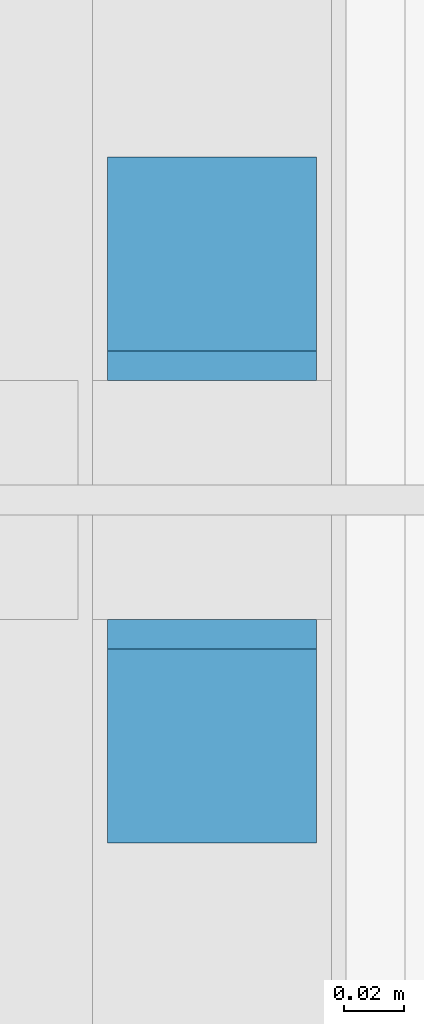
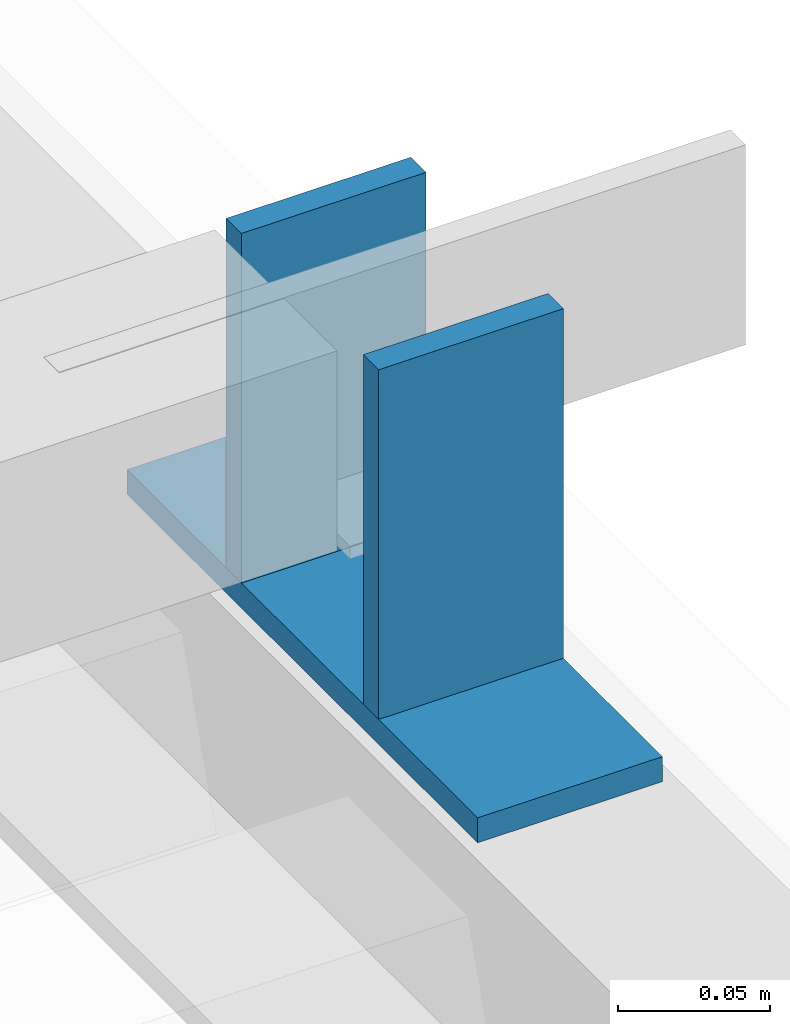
# One storey, part 32 of 98: 3 beams.
"""IFC2X3 building model written with IfcOpenShell, lengths in millimetres."""

from ifc_helpers import new_model, entity, si_unit, converted_unit, derived_unit, direction, frame, origin_with_axes, place, context, subcontext, project, spatial, faceted_brep, material, type_object, element, save


model = new_model("IFC2X3")

# Units and contexts
model_context = context("Model", 3, precision=0.01, world=frame((0.0, 4.29681676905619e-09, 0.0)), true_north=direction((4.01073788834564e-13, 1.0)))
plan_context = context("Plan", 3, precision=0.01, world=frame((0.0, 4.29681676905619e-09, 0.0)), true_north=direction((4.01073788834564e-13, 1.0)))
body_context = subcontext(model_context, "Body", "Model", "MODEL_VIEW")
ifc_project = project(units=[converted_unit("PLANEANGLEUNIT", "DEGREE", entity("IfcPositiveLengthMeasure", 0.0174532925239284), si_unit("PLANEANGLEUNIT", "RADIAN"), dimensions=[0, 0, 0, 0, 0, 0, 0]), si_unit("AREAUNIT", "SQUARE_METRE"), si_unit("LENGTHUNIT", "METRE", prefix="MILLI"), si_unit("MASSUNIT", "GRAM", prefix="KILO"), si_unit("POWERUNIT", "WATT"), si_unit("PRESSUREUNIT", "PASCAL"), si_unit("FORCEUNIT", "NEWTON", prefix="KILO"), si_unit("ELECTRICCURRENTUNIT", "AMPERE"), si_unit("THERMODYNAMICTEMPERATUREUNIT", "DEGREE_CELSIUS"), si_unit("TIMEUNIT", "SECOND"), si_unit("VOLUMEUNIT", "CUBIC_METRE"), derived_unit("LINEARVELOCITYUNIT", [(si_unit("LENGTHUNIT", "METRE"), 1), (si_unit("TIMEUNIT", "SECOND"), -1)]), derived_unit("VOLUMETRICFLOWRATEUNIT", [(si_unit("VOLUMEUNIT", "CUBIC_METRE"), 1), (si_unit("TIMEUNIT", "SECOND"), -1)]), derived_unit("THERMALTRANSMITTANCEUNIT", [(si_unit("POWERUNIT", "WATT"), 1), (si_unit("THERMODYNAMICTEMPERATUREUNIT", "KELVIN"), -1), (si_unit("AREAUNIT", "SQUARE_METRE"), -1)])], contexts=[model_context, plan_context])

# Site, building, storey
site_placement = place(None, frame((0.0, -4.29681676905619e-09, 0.0), z_axis=(0.0, 0.0, 1.0), x_axis=(1.0, 0.0, 0.0)))
site = spatial("IfcSite", under=ifc_project, at=site_placement, Name="Gardermoen", CompositionType="ELEMENT")
building_placement = place(site_placement, frame((0.0, 4.29681676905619e-09, 0.0), z_axis=(0.0, 0.0, 1.0), x_axis=(1.0, 0.0, 0.0)))
building = spatial("IfcBuilding", under=site, at=building_placement, Name="TS", CompositionType="ELEMENT")
storey_placement = place(building_placement, origin_with_axes())
storey = spatial("IfcBuildingStorey", under=building, at=storey_placement, Name="D", CompositionType="ELEMENT", Elevation=0.0)

# Beams
ifc_material = material(Name="STEEL/S355")
beam_type = type_object("IfcBeamType", Name="PL10*70", PredefinedType="NOTDEFINED")
beam_1_placement = place(storey_placement, frame((531999.999847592, 415954.999738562, 207154.999928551), z_axis=(0.999999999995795, 0.0, 2.89999985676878e-06), x_axis=(2.89999985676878e-06, 0.0, -0.999999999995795)))
element("IfcBeam", 1, at=beam_1_placement, inside=storey, type_object=beam_type, material=ifc_material, Name="STÅLBJELKE", ObjectType="PL10*70", context=body_context, shape_type="Brep", body=[
    faceted_brep([(-2.3283064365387e-10, 5.0, -35.0), (2.3283064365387e-10, 5.0, 35.0000000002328), (139.999828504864, 5.0, 35.000000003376), (139.999828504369, 5.0, -34.9999999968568), (2.3283064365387e-10, -5.0, 35.0000000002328), (139.999828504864, -5.0, 35.000000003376), (-2.3283064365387e-10, -5.0, -35.0), (139.999828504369, -5.0, -34.9999999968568)], [[[0, 1, 2, 3]], [[1, 4, 5, 2]], [[4, 6, 7, 5]], [[6, 0, 3, 7]], [[5, 7, 3, 2]], [[6, 4, 1, 0]]]),
])
beam_2_placement = place(storey_placement, frame((532000.000074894, 415885.000270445, 207009.999925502), z_axis=(1.0, 0.0, 0.0), x_axis=(0.0, 1.0, 0.0)))
element("IfcBeam", 2, at=beam_2_placement, inside=storey, type_object=beam_type, material=ifc_material, Name="STÅLBJELKE", ObjectType="PL10*70", context=body_context, shape_type="Brep", body=[
    faceted_brep([(-2.3283064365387e-10, 5.0, -35.0), (2.3283064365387e-10, 5.0, 35.0000000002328), (229.999307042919, 5.0, 35.0000000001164), (229.999307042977, 5.0, -34.9999999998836), (2.3283064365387e-10, -5.0, 35.0000000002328), (229.999307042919, -5.0, 35.0000000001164), (-2.3283064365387e-10, -5.0, -35.0), (229.999307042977, -5.0, -34.9999999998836)], [[[0, 1, 2, 3]], [[1, 4, 5, 2]], [[4, 6, 7, 5]], [[6, 0, 3, 7]], [[5, 7, 3, 2]], [[6, 4, 1, 0]]]),
])
beam_3_placement = place(storey_placement, frame((531999.999847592, 416044.999738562, 207154.999929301), z_axis=(0.999999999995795, 0.0, 2.89999985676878e-06), x_axis=(2.89999985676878e-06, 0.0, -0.999999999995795)))
element("IfcBeam", 3, at=beam_3_placement, inside=storey, type_object=beam_type, material=ifc_material, Name="STÅLBJELKE", ObjectType="PL10*70", context=body_context, shape_type="Brep", body=[
    faceted_brep([(-2.3283064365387e-10, 5.0, -35.0), (2.3283064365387e-10, 5.0, 35.0000000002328), (139.999828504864, 5.0, 35.000000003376), (139.999828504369, 5.0, -34.9999999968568), (2.3283064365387e-10, -5.0, 35.0000000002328), (139.999828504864, -5.0, 35.000000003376), (-2.3283064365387e-10, -5.0, -35.0), (139.999828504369, -5.0, -34.9999999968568)], [[[0, 1, 2, 3]], [[1, 4, 5, 2]], [[4, 6, 7, 5]], [[6, 0, 3, 7]], [[5, 7, 3, 2]], [[6, 4, 1, 0]]]),
])

save(model, "model.ifc")
